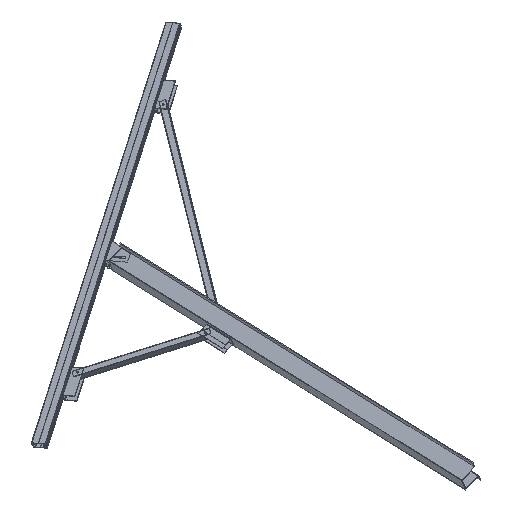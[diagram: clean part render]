
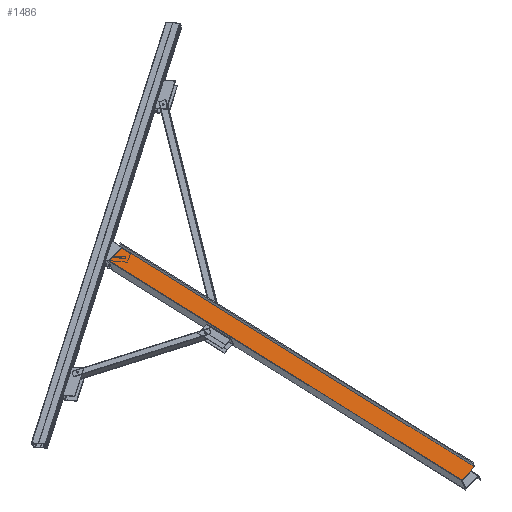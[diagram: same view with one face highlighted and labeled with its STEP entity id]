
A CAD part, isometric view. The second image highlights one B-rep face of the part: STEP entity #1486.
In plain terms, the highlighted planar face has unit normal (-0.404, -0.054, 0.913) as drawn and (1, 0, 0) by its records, which use the part's own axes.
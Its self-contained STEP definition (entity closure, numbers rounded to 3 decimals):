
#1400 = VERTEX_POINT ( 'NONE', #4298 ) ;
#1415 = VERTEX_POINT ( 'NONE', #4335 ) ;
#1420 = EDGE_CURVE ( 'NONE', #1415, #1437, #4324, .T. ) ;
#1437 = VERTEX_POINT ( 'NONE', #4363 ) ;
#1441 = VERTEX_POINT ( 'NONE', #4395 ) ;
#1461 = EDGE_CURVE ( 'NONE', #1441, #1400, #4437, .T. ) ;
#1463 = EDGE_LOOP ( 'NONE', ( #1482, #1495 ) ) ;
#1465 = ORIENTED_EDGE ( 'NONE', *, *, #8174, .F. ) ;
#1479 = ORIENTED_EDGE ( 'NONE', *, *, #8158, .F. ) ;
#1482 = ORIENTED_EDGE ( 'NONE', *, *, #1515, .F. ) ;
#1483 = EDGE_CURVE ( 'NONE', #1400, #1517, #4466, .T. ) ;
#1486 = ADVANCED_FACE ( 'NONE', ( #4451, #4452 ), #4421, .F. ) ;
#1495 = ORIENTED_EDGE ( 'NONE', *, *, #1420, .F. ) ;
#1513 = EDGE_LOOP ( 'NONE', ( #8169, #1465, #1479, #8093 ) ) ;
#1515 = EDGE_CURVE ( 'NONE', #1437, #1415, #4247, .T. ) ;
#1517 = VERTEX_POINT ( 'NONE', #4561 ) ;
#4247 = CIRCLE ( 'NONE', #4267, 5.25 ) ;
#4265 = CARTESIAN_POINT ( 'NONE',  ( 50., 60., 40. ) ) ;
#4267 = AXIS2_PLACEMENT_3D ( 'NONE', #4265, #4272, #4271 ) ;
#4271 = DIRECTION ( 'NONE',  ( 0., 0., -1. ) ) ;
#4272 = DIRECTION ( 'NONE',  ( 1., 0., 0. ) ) ;
#4298 = CARTESIAN_POINT ( 'NONE',  ( 50., 5., 0. ) ) ;
#4324 = CIRCLE ( 'NONE', #4374, 5.25 ) ;
#4328 = CARTESIAN_POINT ( 'NONE',  ( 50., 60., 40. ) ) ;
#4335 = CARTESIAN_POINT ( 'NONE',  ( 50., 60., 45.25 ) ) ;
#4363 = CARTESIAN_POINT ( 'NONE',  ( 50., 60., 34.75 ) ) ;
#4371 = DIRECTION ( 'NONE',  ( 0., 0., -1. ) ) ;
#4372 = DIRECTION ( 'NONE',  ( 1., 0., 0. ) ) ;
#4374 = AXIS2_PLACEMENT_3D ( 'NONE', #4328, #4372, #4371 ) ;
#4395 = CARTESIAN_POINT ( 'NONE',  ( 50., 5., 2900. ) ) ;
#4416 = DIRECTION ( 'NONE',  ( 0., 0., -1. ) ) ;
#4417 = VECTOR ( 'NONE', #4416, 1000. ) ;
#4418 = CARTESIAN_POINT ( 'NONE',  ( 50., 5., 2900. ) ) ;
#4421 = PLANE ( 'NONE',  #4454 ) ;
#4437 = LINE ( 'NONE', #4418, #4417 ) ;
#4448 = DIRECTION ( 'NONE',  ( -1., 0., 0. ) ) ;
#4451 = FACE_BOUND ( 'NONE', #1463, .T. ) ;
#4452 = FACE_OUTER_BOUND ( 'NONE', #1513, .T. ) ;
#4454 = AXIS2_PLACEMENT_3D ( 'NONE', #4504, #4448, #4499 ) ;
#4457 = DIRECTION ( 'NONE',  ( 0., 1., 0. ) ) ;
#4458 = VECTOR ( 'NONE', #4457, 1000. ) ;
#4459 = CARTESIAN_POINT ( 'NONE',  ( 50., 5., 0. ) ) ;
#4466 = LINE ( 'NONE', #4459, #4458 ) ;
#4499 = DIRECTION ( 'NONE',  ( 0., 0., 1. ) ) ;
#4504 = CARTESIAN_POINT ( 'NONE',  ( 50., 5., 2900. ) ) ;
#4561 = CARTESIAN_POINT ( 'NONE',  ( 50., 120., 0. ) ) ;
#5994 = CARTESIAN_POINT ( 'NONE',  ( 50., 120., 2900. ) ) ;
#6052 = DIRECTION ( 'NONE',  ( 0., 1., 0. ) ) ;
#6053 = VECTOR ( 'NONE', #6052, 1000. ) ;
#6063 = CARTESIAN_POINT ( 'NONE',  ( 50., 5., 2900. ) ) ;
#6064 = LINE ( 'NONE', #6063, #6053 ) ;
#6074 = CARTESIAN_POINT ( 'NONE',  ( 50., 120., 2900. ) ) ;
#6075 = LINE ( 'NONE', #6074, #6125 ) ;
#6124 = DIRECTION ( 'NONE',  ( 0., 0., -1. ) ) ;
#6125 = VECTOR ( 'NONE', #6124, 1000. ) ;
#8093 = ORIENTED_EDGE ( 'NONE', *, *, #1461, .T. ) ;
#8126 = VERTEX_POINT ( 'NONE', #5994 ) ;
#8158 = EDGE_CURVE ( 'NONE', #1441, #8126, #6064, .T. ) ;
#8169 = ORIENTED_EDGE ( 'NONE', *, *, #1483, .T. ) ;
#8174 = EDGE_CURVE ( 'NONE', #8126, #1517, #6075, .T. ) ;
